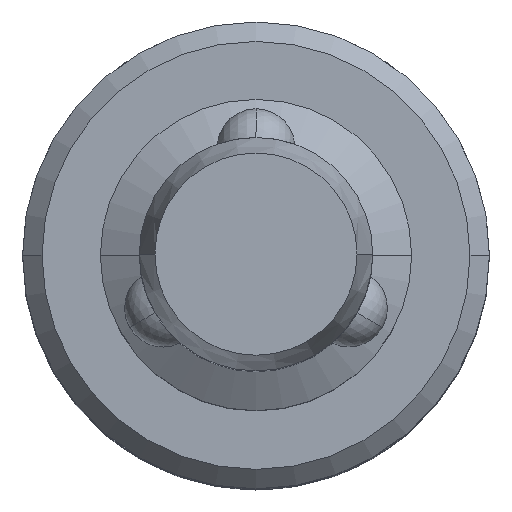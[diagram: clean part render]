
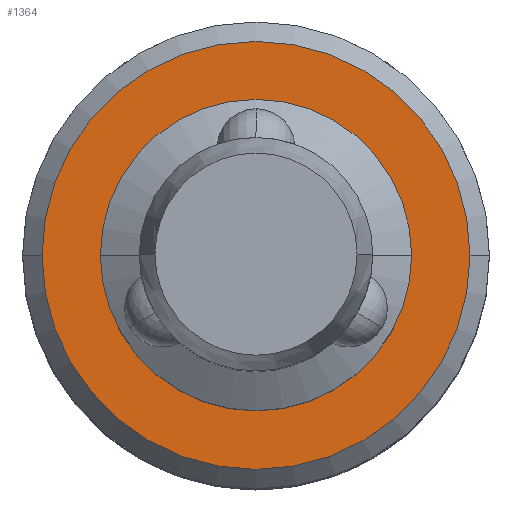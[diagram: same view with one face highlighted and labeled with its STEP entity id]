
A CAD part, top view. The second image highlights one B-rep face of the part: STEP entity #1364.
In plain terms, the highlighted planar face has unit normal (0, 0, 1).
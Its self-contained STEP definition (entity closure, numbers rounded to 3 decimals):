
#53 = CARTESIAN_POINT ( 'NONE',  ( 5.5, 0., 0. ) ) ;
#58 = CARTESIAN_POINT ( 'NONE',  ( 0., 0., 0. ) ) ;
#179 = DIRECTION ( 'NONE',  ( 1., 0., 0. ) ) ;
#186 = AXIS2_PLACEMENT_3D ( 'NONE', #58, #934, #1311 ) ;
#211 = EDGE_CURVE ( 'NONE', #469, #570, #638, .T. ) ;
#277 = DIRECTION ( 'NONE',  ( 0., 0., 1. ) ) ;
#329 = EDGE_CURVE ( 'NONE', #431, #1068, #581, .T. ) ;
#380 = CARTESIAN_POINT ( 'NONE',  ( 3.783, 0., 0. ) ) ;
#387 = ORIENTED_EDGE ( 'NONE', *, *, #211, .T. ) ;
#405 = AXIS2_PLACEMENT_3D ( 'NONE', #1428, #277, #179 ) ;
#431 = VERTEX_POINT ( 'NONE', #1546 ) ;
#469 = VERTEX_POINT ( 'NONE', #53 ) ;
#480 = DIRECTION ( 'NONE',  ( 1., 0., 0. ) ) ;
#506 = EDGE_CURVE ( 'NONE', #1068, #431, #1522, .T. ) ;
#520 = AXIS2_PLACEMENT_3D ( 'NONE', #1609, #734, #1620 ) ;
#527 = FACE_BOUND ( 'NONE', #1321, .T. ) ;
#570 = VERTEX_POINT ( 'NONE', #945 ) ;
#574 = ORIENTED_EDGE ( 'NONE', *, *, #506, .F. ) ;
#581 = CIRCLE ( 'NONE', #1230, 3.783 ) ;
#634 = DIRECTION ( 'NONE',  ( 1., 0., 0. ) ) ;
#638 = CIRCLE ( 'NONE', #1608, 5.5 ) ;
#705 = EDGE_LOOP ( 'NONE', ( #1621, #387 ) ) ;
#734 = DIRECTION ( 'NONE',  ( 0., 0., 1. ) ) ;
#801 = PLANE ( 'NONE',  #186 ) ;
#848 = FACE_OUTER_BOUND ( 'NONE', #705, .T. ) ;
#934 = DIRECTION ( 'NONE',  ( 0., 0., 1. ) ) ;
#945 = CARTESIAN_POINT ( 'NONE',  ( -5.5, 0., 0. ) ) ;
#1032 = DIRECTION ( 'NONE',  ( 0., 0., 1. ) ) ;
#1049 = CIRCLE ( 'NONE', #520, 5.5 ) ;
#1068 = VERTEX_POINT ( 'NONE', #380 ) ;
#1136 = DIRECTION ( 'NONE',  ( 0., 0., 1. ) ) ;
#1156 = CARTESIAN_POINT ( 'NONE',  ( 0., 0., 0. ) ) ;
#1230 = AXIS2_PLACEMENT_3D ( 'NONE', #1156, #1032, #634 ) ;
#1241 = CARTESIAN_POINT ( 'NONE',  ( 0., 0., 0. ) ) ;
#1311 = DIRECTION ( 'NONE',  ( 1., 0., 0. ) ) ;
#1321 = EDGE_LOOP ( 'NONE', ( #1498, #574 ) ) ;
#1364 = ADVANCED_FACE ( 'NONE', ( #848, #527 ), #801, .T. ) ;
#1428 = CARTESIAN_POINT ( 'NONE',  ( 0., 0., 0. ) ) ;
#1498 = ORIENTED_EDGE ( 'NONE', *, *, #329, .F. ) ;
#1503 = EDGE_CURVE ( 'NONE', #570, #469, #1049, .T. ) ;
#1522 = CIRCLE ( 'NONE', #405, 3.783 ) ;
#1546 = CARTESIAN_POINT ( 'NONE',  ( -3.783, 0., 0. ) ) ;
#1608 = AXIS2_PLACEMENT_3D ( 'NONE', #1241, #1136, #480 ) ;
#1609 = CARTESIAN_POINT ( 'NONE',  ( 0., 0., 0. ) ) ;
#1620 = DIRECTION ( 'NONE',  ( 1., 0., 0. ) ) ;
#1621 = ORIENTED_EDGE ( 'NONE', *, *, #1503, .T. ) ;
